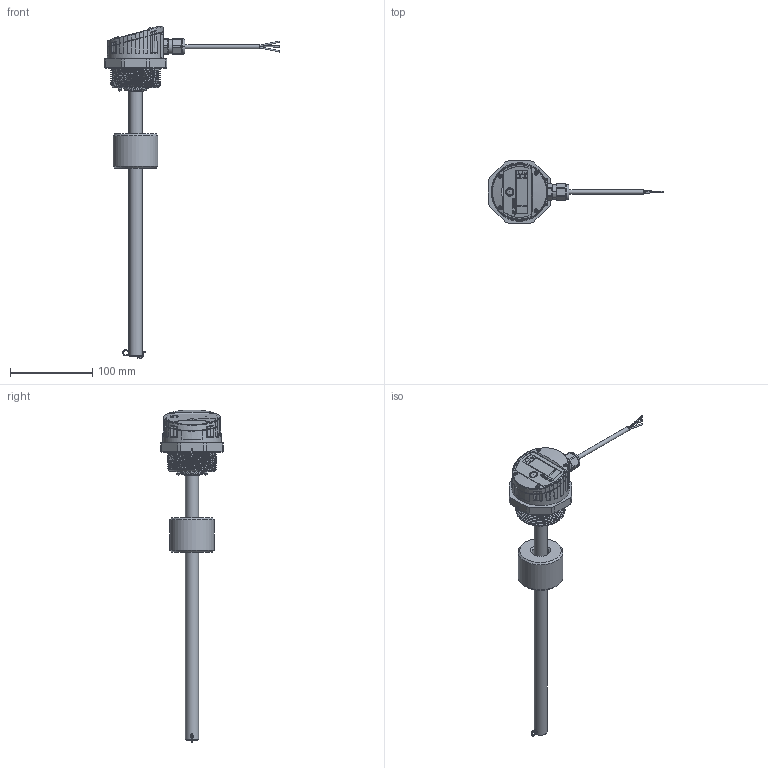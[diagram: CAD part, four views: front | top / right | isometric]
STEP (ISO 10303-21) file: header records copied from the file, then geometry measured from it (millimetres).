
FILE_DESCRIPTION(/* description */ (''),/* implementation_level */ '2;1');
FILE_NAME(/* name */ '2.23_A_1-LVL-N.stp',/* time_stamp */ '2019-12-13T10:20:43+01:00',/* author */ (''),/* organization */ (''),/* preprocessor_version */ 'ST-DEVELOPER v16',/* originating_system */ 'SIEMENS PLM Software NX 11.0',/* authorisation */ '');
FILE_SCHEMA (('AUTOMOTIVE_DESIGN { 1 0 10303 214 3 1 1 1 }'));
Products named in the file (1): pr1m01944044fuz2
Bounding box: 213 x 76 x 402.88 mm (x, y, z)
Volume: 287788.6 mm3; surface area: 113481.6 mm2
Topology: 32 solids, 32 shells, 1879 faces, 4967 edges, 3234 vertices
Faces by surface type: plane 757, bspline 398, cylinder 322, cone 172, extrusion 152, torus 50, sphere 28
Full cylindrical faces by diameter (mm): 1.158 x1, 2 x6, 2.05 x32, 2.1 x6, 2.26 x4, 2.5 x2, 2.7 x10, 4.2 x1, 4.5 x4, 5 x1, 8.64 x1, 9 x2, 10 x1, 15 x1, 16 x1, 18 x1, 20.6 x1, 23.9 x1, 26.3 x2, 26.4 x1, 32.4 x1, 36.5 x1, 37 x1, 37.1 x1, 37.25 x1, 42 x1, 54.4 x1, 55.5 x1, 59.61 x8, 65.5 x1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
Entity records: 93623 total; most frequent: CARTESIAN_POINT 52787, ORIENTED_EDGE 9216, DIRECTION 6872, EDGE_CURVE 4608, VERTEX_POINT 3072, AXIS2_PLACEMENT_3D 2656, EDGE_LOOP 2132, B_SPLINE_CURVE_WITH_KNOTS 1958
